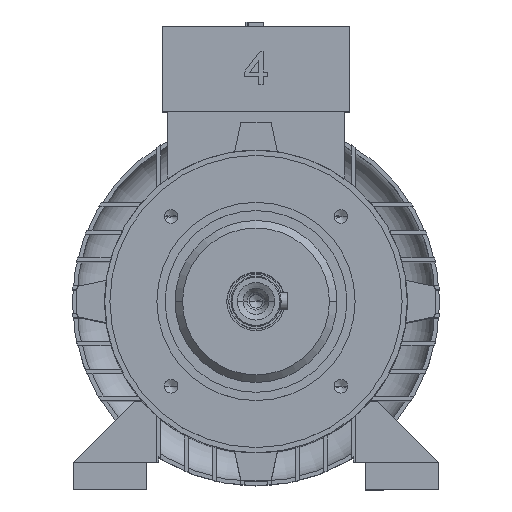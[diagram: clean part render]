
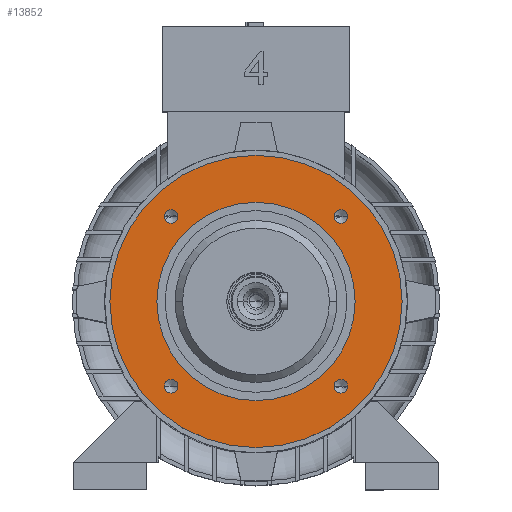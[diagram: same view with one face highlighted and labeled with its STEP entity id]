
A CAD part, top view. The second image highlights one B-rep face of the part: STEP entity #13852.
In plain terms, the highlighted planar face has unit normal (0, 0, 1).
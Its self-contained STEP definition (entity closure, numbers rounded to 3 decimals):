
#21 = DIRECTION ( 'NONE',  ( 0., 0., 1. ) ) ;
#164 = AXIS2_PLACEMENT_3D ( 'NONE', #15208, #15270, #6575 ) ;
#434 = VERTEX_POINT ( 'NONE', #7453 ) ;
#1000 = CARTESIAN_POINT ( 'NONE',  ( 40.659, -40.659, 118.5 ) ) ;
#1284 = EDGE_LOOP ( 'NONE', ( #3052, #15346 ) ) ;
#1573 = VERTEX_POINT ( 'NONE', #18111 ) ;
#1782 = CARTESIAN_POINT ( 'NONE',  ( -40.659, 40.659, 118.5 ) ) ;
#1841 = EDGE_CURVE ( 'NONE', #8796, #5129, #4812, .T. ) ;
#2031 = AXIS2_PLACEMENT_3D ( 'NONE', #14401, #7059, #17313 ) ;
#2574 = FACE_BOUND ( 'NONE', #17719, .T. ) ;
#2714 = CARTESIAN_POINT ( 'NONE',  ( -43.909, -40.659, 118.5 ) ) ;
#3052 = ORIENTED_EDGE ( 'NONE', *, *, #5405, .F. ) ;
#3421 = CARTESIAN_POINT ( 'NONE',  ( 43.909, -40.659, 118.5 ) ) ;
#3713 = DIRECTION ( 'NONE',  ( 0., 0., 1. ) ) ;
#4137 = CIRCLE ( 'NONE', #11201, 70. ) ;
#4198 = DIRECTION ( 'NONE',  ( 1., 0., 0. ) ) ;
#4287 = EDGE_CURVE ( 'NONE', #5129, #8796, #8302, .T. ) ;
#4409 = DIRECTION ( 'NONE',  ( 1., 0., 0. ) ) ;
#4507 = ORIENTED_EDGE ( 'NONE', *, *, #1841, .T. ) ;
#4630 = CIRCLE ( 'NONE', #5601, 3.25 ) ;
#4721 = CARTESIAN_POINT ( 'NONE',  ( 37.409, 40.659, 118.5 ) ) ;
#4812 = CIRCLE ( 'NONE', #164, 47.5 ) ;
#4837 = CARTESIAN_POINT ( 'NONE',  ( 0., 0., 118.5 ) ) ;
#4935 = AXIS2_PLACEMENT_3D ( 'NONE', #13729, #18320, #9335 ) ;
#5101 = EDGE_CURVE ( 'NONE', #13133, #16325, #18163, .T. ) ;
#5129 = VERTEX_POINT ( 'NONE', #11343 ) ;
#5384 = EDGE_LOOP ( 'NONE', ( #10544, #14724 ) ) ;
#5405 = EDGE_CURVE ( 'NONE', #434, #12341, #4137, .T. ) ;
#5476 = VERTEX_POINT ( 'NONE', #12053 ) ;
#5601 = AXIS2_PLACEMENT_3D ( 'NONE', #10291, #11920, #7657 ) ;
#5604 = CARTESIAN_POINT ( 'NONE',  ( 40.659, -40.659, 118.5 ) ) ;
#5852 = VERTEX_POINT ( 'NONE', #15523 ) ;
#5917 = CIRCLE ( 'NONE', #2031, 3.25 ) ;
#6037 = EDGE_LOOP ( 'NONE', ( #12561, #17091 ) ) ;
#6311 = DIRECTION ( 'NONE',  ( 0., 0., 1. ) ) ;
#6349 = DIRECTION ( 'NONE',  ( 0., 0., -1. ) ) ;
#6438 = EDGE_CURVE ( 'NONE', #14275, #5852, #5917, .T. ) ;
#6529 = EDGE_LOOP ( 'NONE', ( #12521, #8152 ) ) ;
#6542 = CARTESIAN_POINT ( 'NONE',  ( -47.5, 0., 118.5 ) ) ;
#6575 = DIRECTION ( 'NONE',  ( -1., 0., 0. ) ) ;
#6816 = VERTEX_POINT ( 'NONE', #17895 ) ;
#6844 = EDGE_CURVE ( 'NONE', #12341, #434, #16476, .T. ) ;
#7059 = DIRECTION ( 'NONE',  ( 0., 0., 1. ) ) ;
#7145 = DIRECTION ( 'NONE',  ( 0., 0., 1. ) ) ;
#7445 = CIRCLE ( 'NONE', #17377, 3.25 ) ;
#7453 = CARTESIAN_POINT ( 'NONE',  ( -70., 0., 118.5 ) ) ;
#7555 = AXIS2_PLACEMENT_3D ( 'NONE', #4837, #6349, #17960 ) ;
#7657 = DIRECTION ( 'NONE',  ( 1., 0., 0. ) ) ;
#7728 = DIRECTION ( 'NONE',  ( 1., 0., 0. ) ) ;
#8054 = CARTESIAN_POINT ( 'NONE',  ( -40.659, -40.659, 118.5 ) ) ;
#8152 = ORIENTED_EDGE ( 'NONE', *, *, #13227, .F. ) ;
#8302 = CIRCLE ( 'NONE', #4935, 47.5 ) ;
#8323 = CIRCLE ( 'NONE', #18500, 3.25 ) ;
#8673 = DIRECTION ( 'NONE',  ( 1., 0., 0. ) ) ;
#8795 = PLANE ( 'NONE',  #16426 ) ;
#8796 = VERTEX_POINT ( 'NONE', #6542 ) ;
#8895 = ORIENTED_EDGE ( 'NONE', *, *, #4287, .T. ) ;
#9335 = DIRECTION ( 'NONE',  ( -1., 0., 0. ) ) ;
#9726 = AXIS2_PLACEMENT_3D ( 'NONE', #1000, #17209, #18752 ) ;
#10291 = CARTESIAN_POINT ( 'NONE',  ( 40.659, 40.659, 118.5 ) ) ;
#10301 = DIRECTION ( 'NONE',  ( 0., 0., 1. ) ) ;
#10406 = DIRECTION ( 'NONE',  ( -1., 0., 0. ) ) ;
#10544 = ORIENTED_EDGE ( 'NONE', *, *, #13426, .F. ) ;
#10657 = EDGE_CURVE ( 'NONE', #5476, #14705, #17337, .T. ) ;
#11201 = AXIS2_PLACEMENT_3D ( 'NONE', #17848, #13459, #10406 ) ;
#11289 = CARTESIAN_POINT ( 'NONE',  ( 70., 0., 118.5 ) ) ;
#11343 = CARTESIAN_POINT ( 'NONE',  ( 47.5, 0., 118.5 ) ) ;
#11471 = FACE_BOUND ( 'NONE', #6037, .T. ) ;
#11920 = DIRECTION ( 'NONE',  ( 0., 0., 1. ) ) ;
#12053 = CARTESIAN_POINT ( 'NONE',  ( -37.409, -40.659, 118.5 ) ) ;
#12341 = VERTEX_POINT ( 'NONE', #11289 ) ;
#12521 = ORIENTED_EDGE ( 'NONE', *, *, #10657, .F. ) ;
#12561 = ORIENTED_EDGE ( 'NONE', *, *, #12613, .F. ) ;
#12599 = DIRECTION ( 'NONE',  ( 1., 0., 0. ) ) ;
#12613 = EDGE_CURVE ( 'NONE', #6816, #1573, #7445, .T. ) ;
#12966 = ORIENTED_EDGE ( 'NONE', *, *, #6438, .F. ) ;
#12992 = CARTESIAN_POINT ( 'NONE',  ( 0., 70., 118.5 ) ) ;
#13133 = VERTEX_POINT ( 'NONE', #13305 ) ;
#13227 = EDGE_CURVE ( 'NONE', #14705, #5476, #8323, .T. ) ;
#13305 = CARTESIAN_POINT ( 'NONE',  ( 37.409, -40.659, 118.5 ) ) ;
#13426 = EDGE_CURVE ( 'NONE', #16325, #13133, #15864, .T. ) ;
#13459 = DIRECTION ( 'NONE',  ( 0., 0., -1. ) ) ;
#13729 = CARTESIAN_POINT ( 'NONE',  ( 0., 0., 118.5 ) ) ;
#13852 = ADVANCED_FACE ( 'NONE', ( #16563, #11471, #15385, #16798, #2574, #17941 ), #8795, .T. ) ;
#14016 = CARTESIAN_POINT ( 'NONE',  ( -40.659, -40.659, 118.5 ) ) ;
#14200 = EDGE_CURVE ( 'NONE', #5852, #14275, #4630, .T. ) ;
#14275 = VERTEX_POINT ( 'NONE', #4721 ) ;
#14401 = CARTESIAN_POINT ( 'NONE',  ( 40.659, 40.659, 118.5 ) ) ;
#14559 = CARTESIAN_POINT ( 'NONE',  ( -40.659, 40.659, 118.5 ) ) ;
#14701 = EDGE_LOOP ( 'NONE', ( #15284, #12966 ) ) ;
#14705 = VERTEX_POINT ( 'NONE', #2714 ) ;
#14724 = ORIENTED_EDGE ( 'NONE', *, *, #5101, .F. ) ;
#15208 = CARTESIAN_POINT ( 'NONE',  ( 0., 0., 118.5 ) ) ;
#15270 = DIRECTION ( 'NONE',  ( 0., 0., -1. ) ) ;
#15284 = ORIENTED_EDGE ( 'NONE', *, *, #14200, .F. ) ;
#15346 = ORIENTED_EDGE ( 'NONE', *, *, #6844, .F. ) ;
#15385 = FACE_BOUND ( 'NONE', #14701, .T. ) ;
#15523 = CARTESIAN_POINT ( 'NONE',  ( 43.909, 40.659, 118.5 ) ) ;
#15864 = CIRCLE ( 'NONE', #18151, 3.25 ) ;
#16254 = AXIS2_PLACEMENT_3D ( 'NONE', #14016, #16997, #12599 ) ;
#16325 = VERTEX_POINT ( 'NONE', #3421 ) ;
#16426 = AXIS2_PLACEMENT_3D ( 'NONE', #12992, #21, #8673 ) ;
#16476 = CIRCLE ( 'NONE', #7555, 70. ) ;
#16563 = FACE_BOUND ( 'NONE', #6529, .T. ) ;
#16798 = FACE_BOUND ( 'NONE', #5384, .T. ) ;
#16997 = DIRECTION ( 'NONE',  ( 0., 0., 1. ) ) ;
#17091 = ORIENTED_EDGE ( 'NONE', *, *, #18274, .F. ) ;
#17209 = DIRECTION ( 'NONE',  ( 0., 0., 1. ) ) ;
#17313 = DIRECTION ( 'NONE',  ( 1., 0., 0. ) ) ;
#17337 = CIRCLE ( 'NONE', #16254, 3.25 ) ;
#17377 = AXIS2_PLACEMENT_3D ( 'NONE', #1782, #6311, #7728 ) ;
#17719 = EDGE_LOOP ( 'NONE', ( #4507, #8895 ) ) ;
#17848 = CARTESIAN_POINT ( 'NONE',  ( 0., 0., 118.5 ) ) ;
#17895 = CARTESIAN_POINT ( 'NONE',  ( -37.409, 40.659, 118.5 ) ) ;
#17941 = FACE_OUTER_BOUND ( 'NONE', #1284, .T. ) ;
#17960 = DIRECTION ( 'NONE',  ( -1., 0., 0. ) ) ;
#18111 = CARTESIAN_POINT ( 'NONE',  ( -43.909, 40.659, 118.5 ) ) ;
#18128 = CIRCLE ( 'NONE', #18631, 3.25 ) ;
#18151 = AXIS2_PLACEMENT_3D ( 'NONE', #5604, #7145, #4198 ) ;
#18163 = CIRCLE ( 'NONE', #9726, 3.25 ) ;
#18274 = EDGE_CURVE ( 'NONE', #1573, #6816, #18128, .T. ) ;
#18320 = DIRECTION ( 'NONE',  ( 0., 0., -1. ) ) ;
#18332 = DIRECTION ( 'NONE',  ( 1., 0., 0. ) ) ;
#18500 = AXIS2_PLACEMENT_3D ( 'NONE', #8054, #3713, #18332 ) ;
#18631 = AXIS2_PLACEMENT_3D ( 'NONE', #14559, #10301, #4409 ) ;
#18752 = DIRECTION ( 'NONE',  ( 1., 0., 0. ) ) ;
